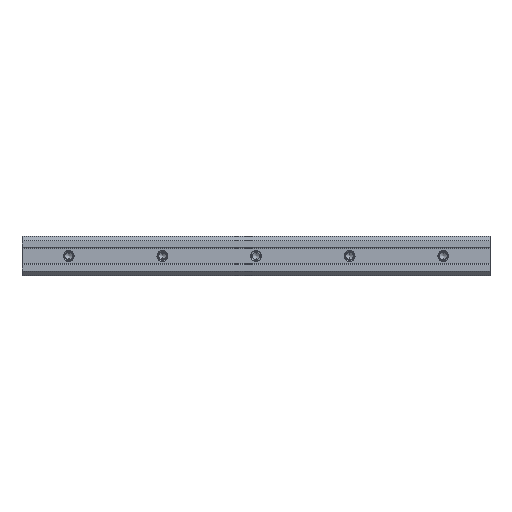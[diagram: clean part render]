
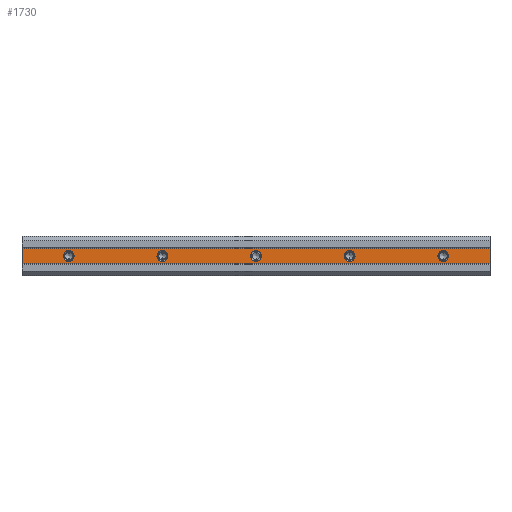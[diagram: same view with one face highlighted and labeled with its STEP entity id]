
A CAD part, front view. The second image highlights one B-rep face of the part: STEP entity #1730.
In plain terms, the highlighted planar face has unit normal (0, -1, 0).
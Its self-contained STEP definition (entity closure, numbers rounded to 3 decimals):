
#11 = EDGE_CURVE ( 'NONE', #1460, #800, #575, .T. ) ;
#20 = CARTESIAN_POINT ( 'NONE',  ( 90., 0.5, 0. ) ) ;
#48 = EDGE_CURVE ( 'NONE', #909, #1624, #1227, .T. ) ;
#71 = DIRECTION ( 'NONE',  ( 0., 1., 0. ) ) ;
#84 = LINE ( 'NONE', #1768, #656 ) ;
#100 = ORIENTED_EDGE ( 'NONE', *, *, #891, .T. ) ;
#126 = FACE_BOUND ( 'NONE', #1877, .T. ) ;
#129 = AXIS2_PLACEMENT_3D ( 'NONE', #319, #1630, #148 ) ;
#130 = VERTEX_POINT ( 'NONE', #854 ) ;
#148 = DIRECTION ( 'NONE',  ( 0., 0., 1. ) ) ;
#161 = ORIENTED_EDGE ( 'NONE', *, *, #830, .F. ) ;
#165 = AXIS2_PLACEMENT_3D ( 'NONE', #961, #473, #1978 ) ;
#190 = LINE ( 'NONE', #524, #1523 ) ;
#195 = CIRCLE ( 'NONE', #271, 3.5 ) ;
#197 = CIRCLE ( 'NONE', #829, 3.5 ) ;
#232 = CARTESIAN_POINT ( 'NONE',  ( 300., 0.5, -5. ) ) ;
#238 = AXIS2_PLACEMENT_3D ( 'NONE', #1076, #917, #577 ) ;
#240 = ORIENTED_EDGE ( 'NONE', *, *, #994, .T. ) ;
#252 = DIRECTION ( 'NONE',  ( -1., 0., 0. ) ) ;
#271 = AXIS2_PLACEMENT_3D ( 'NONE', #970, #496, #817 ) ;
#290 = ORIENTED_EDGE ( 'NONE', *, *, #48, .F. ) ;
#319 = CARTESIAN_POINT ( 'NONE',  ( 30., 0.5, 0. ) ) ;
#330 = VERTEX_POINT ( 'NONE', #617 ) ;
#354 = ORIENTED_EDGE ( 'NONE', *, *, #1329, .T. ) ;
#357 = CARTESIAN_POINT ( 'NONE',  ( 270., 0.5, 3.5 ) ) ;
#377 = EDGE_CURVE ( 'NONE', #330, #1427, #1995, .T. ) ;
#405 = VERTEX_POINT ( 'NONE', #1473 ) ;
#409 = AXIS2_PLACEMENT_3D ( 'NONE', #1885, #879, #703 ) ;
#435 = CARTESIAN_POINT ( 'NONE',  ( 0., 0.5, -5. ) ) ;
#451 = AXIS2_PLACEMENT_3D ( 'NONE', #905, #2049, #1708 ) ;
#473 = DIRECTION ( 'NONE',  ( 0., 1., 0. ) ) ;
#494 = DIRECTION ( 'NONE',  ( 0., 1., 0. ) ) ;
#496 = DIRECTION ( 'NONE',  ( 0., 1., 0. ) ) ;
#524 = CARTESIAN_POINT ( 'NONE',  ( 300., 0.5, -5. ) ) ;
#541 = CARTESIAN_POINT ( 'NONE',  ( 210., 0.5, 0. ) ) ;
#575 = CIRCLE ( 'NONE', #2073, 3.5 ) ;
#577 = DIRECTION ( 'NONE',  ( 0., 0., 1. ) ) ;
#617 = CARTESIAN_POINT ( 'NONE',  ( 0., 0.5, 5. ) ) ;
#640 = CARTESIAN_POINT ( 'NONE',  ( 0., 0.5, -5. ) ) ;
#643 = EDGE_CURVE ( 'NONE', #752, #1304, #1694, .T. ) ;
#654 = CIRCLE ( 'NONE', #1769, 3.5 ) ;
#656 = VECTOR ( 'NONE', #252, 1000. ) ;
#658 = ORIENTED_EDGE ( 'NONE', *, *, #1437, .T. ) ;
#660 = EDGE_CURVE ( 'NONE', #1848, #405, #195, .T. ) ;
#703 = DIRECTION ( 'NONE',  ( 0., 0., 1. ) ) ;
#724 = EDGE_LOOP ( 'NONE', ( #1943, #161, #290, #658 ) ) ;
#738 = DIRECTION ( 'NONE',  ( 0., 1., 0. ) ) ;
#752 = VERTEX_POINT ( 'NONE', #1798 ) ;
#757 = CIRCLE ( 'NONE', #409, 3.5 ) ;
#781 = DIRECTION ( 'NONE',  ( 0., 0., 1. ) ) ;
#786 = ORIENTED_EDGE ( 'NONE', *, *, #11, .T. ) ;
#793 = PLANE ( 'NONE',  #1698 ) ;
#800 = VERTEX_POINT ( 'NONE', #1501 ) ;
#817 = DIRECTION ( 'NONE',  ( 0., 0., 1. ) ) ;
#825 = FACE_BOUND ( 'NONE', #1583, .T. ) ;
#829 = AXIS2_PLACEMENT_3D ( 'NONE', #2060, #1059, #781 ) ;
#830 = EDGE_CURVE ( 'NONE', #1624, #1427, #190, .T. ) ;
#854 = CARTESIAN_POINT ( 'NONE',  ( 210., 0.5, 3.5 ) ) ;
#879 = DIRECTION ( 'NONE',  ( 0., 1., 0. ) ) ;
#889 = CARTESIAN_POINT ( 'NONE',  ( 300., 0.5, 5. ) ) ;
#891 = EDGE_CURVE ( 'NONE', #405, #1848, #757, .T. ) ;
#905 = CARTESIAN_POINT ( 'NONE',  ( 90., 0.5, 0. ) ) ;
#909 = VERTEX_POINT ( 'NONE', #889 ) ;
#911 = EDGE_CURVE ( 'NONE', #130, #1115, #654, .T. ) ;
#917 = DIRECTION ( 'NONE',  ( 0., 1., 0. ) ) ;
#928 = VECTOR ( 'NONE', #1218, 1000. ) ;
#937 = CARTESIAN_POINT ( 'NONE',  ( 150., 0.5, -3.5 ) ) ;
#948 = EDGE_CURVE ( 'NONE', #1838, #1912, #197, .T. ) ;
#961 = CARTESIAN_POINT ( 'NONE',  ( 30., 0.5, 0. ) ) ;
#968 = DIRECTION ( 'NONE',  ( 0., 0., 1. ) ) ;
#970 = CARTESIAN_POINT ( 'NONE',  ( 150., 0.5, 0. ) ) ;
#994 = EDGE_CURVE ( 'NONE', #1304, #752, #2122, .T. ) ;
#1027 = CARTESIAN_POINT ( 'NONE',  ( 300., 0.5, -5. ) ) ;
#1030 = DIRECTION ( 'NONE',  ( 0., 1., 0. ) ) ;
#1059 = DIRECTION ( 'NONE',  ( 0., 1., 0. ) ) ;
#1063 = DIRECTION ( 'NONE',  ( 0., 0., 1. ) ) ;
#1076 = CARTESIAN_POINT ( 'NONE',  ( 270., 0.5, 0. ) ) ;
#1078 = CARTESIAN_POINT ( 'NONE',  ( 90., 0.5, -3.5 ) ) ;
#1115 = VERTEX_POINT ( 'NONE', #2145 ) ;
#1182 = AXIS2_PLACEMENT_3D ( 'NONE', #1234, #71, #1063 ) ;
#1218 = DIRECTION ( 'NONE',  ( 0., 0., -1. ) ) ;
#1227 = LINE ( 'NONE', #232, #928 ) ;
#1234 = CARTESIAN_POINT ( 'NONE',  ( 210., 0.5, 0. ) ) ;
#1298 = FACE_BOUND ( 'NONE', #1855, .T. ) ;
#1304 = VERTEX_POINT ( 'NONE', #2063 ) ;
#1329 = EDGE_CURVE ( 'NONE', #1115, #130, #1842, .T. ) ;
#1341 = EDGE_CURVE ( 'NONE', #1912, #1838, #1731, .T. ) ;
#1393 = ORIENTED_EDGE ( 'NONE', *, *, #911, .T. ) ;
#1427 = VERTEX_POINT ( 'NONE', #435 ) ;
#1437 = EDGE_CURVE ( 'NONE', #909, #330, #84, .T. ) ;
#1455 = CIRCLE ( 'NONE', #451, 3.5 ) ;
#1460 = VERTEX_POINT ( 'NONE', #1078 ) ;
#1473 = CARTESIAN_POINT ( 'NONE',  ( 150., 0.5, 3.5 ) ) ;
#1501 = CARTESIAN_POINT ( 'NONE',  ( 90., 0.5, 3.5 ) ) ;
#1517 = ORIENTED_EDGE ( 'NONE', *, *, #660, .T. ) ;
#1520 = DIRECTION ( 'NONE',  ( 0., 0., 1. ) ) ;
#1523 = VECTOR ( 'NONE', #1852, 1000. ) ;
#1548 = EDGE_LOOP ( 'NONE', ( #1517, #100 ) ) ;
#1582 = ORIENTED_EDGE ( 'NONE', *, *, #643, .T. ) ;
#1583 = EDGE_LOOP ( 'NONE', ( #240, #1582 ) ) ;
#1624 = VERTEX_POINT ( 'NONE', #1027 ) ;
#1630 = DIRECTION ( 'NONE',  ( 0., 1., 0. ) ) ;
#1644 = EDGE_LOOP ( 'NONE', ( #786, #1916 ) ) ;
#1654 = VECTOR ( 'NONE', #1840, 1000. ) ;
#1694 = CIRCLE ( 'NONE', #129, 3.5 ) ;
#1696 = DIRECTION ( 'NONE',  ( 0., 0., 1. ) ) ;
#1698 = AXIS2_PLACEMENT_3D ( 'NONE', #2164, #494, #968 ) ;
#1708 = DIRECTION ( 'NONE',  ( 0., 0., 1. ) ) ;
#1730 = ADVANCED_FACE ( 'NONE', ( #1959, #825, #2138, #1969, #126, #1298 ), #793, .F. ) ;
#1731 = CIRCLE ( 'NONE', #238, 3.5 ) ;
#1768 = CARTESIAN_POINT ( 'NONE',  ( 300., 0.5, 5. ) ) ;
#1769 = AXIS2_PLACEMENT_3D ( 'NONE', #541, #738, #1696 ) ;
#1782 = ORIENTED_EDGE ( 'NONE', *, *, #1341, .T. ) ;
#1798 = CARTESIAN_POINT ( 'NONE',  ( 30., 0.5, 3.5 ) ) ;
#1838 = VERTEX_POINT ( 'NONE', #1929 ) ;
#1840 = DIRECTION ( 'NONE',  ( 0., 0., -1. ) ) ;
#1842 = CIRCLE ( 'NONE', #1182, 3.5 ) ;
#1848 = VERTEX_POINT ( 'NONE', #937 ) ;
#1852 = DIRECTION ( 'NONE',  ( -1., 0., 0. ) ) ;
#1855 = EDGE_LOOP ( 'NONE', ( #2124, #1782 ) ) ;
#1877 = EDGE_LOOP ( 'NONE', ( #354, #1393 ) ) ;
#1885 = CARTESIAN_POINT ( 'NONE',  ( 150., 0.5, 0. ) ) ;
#1912 = VERTEX_POINT ( 'NONE', #357 ) ;
#1916 = ORIENTED_EDGE ( 'NONE', *, *, #2068, .T. ) ;
#1929 = CARTESIAN_POINT ( 'NONE',  ( 270., 0.5, -3.5 ) ) ;
#1943 = ORIENTED_EDGE ( 'NONE', *, *, #377, .T. ) ;
#1959 = FACE_BOUND ( 'NONE', #1644, .T. ) ;
#1969 = FACE_BOUND ( 'NONE', #1548, .T. ) ;
#1978 = DIRECTION ( 'NONE',  ( 0., 0., 1. ) ) ;
#1995 = LINE ( 'NONE', #640, #1654 ) ;
#2049 = DIRECTION ( 'NONE',  ( 0., 1., 0. ) ) ;
#2060 = CARTESIAN_POINT ( 'NONE',  ( 270., 0.5, 0. ) ) ;
#2063 = CARTESIAN_POINT ( 'NONE',  ( 30., 0.5, -3.5 ) ) ;
#2068 = EDGE_CURVE ( 'NONE', #800, #1460, #1455, .T. ) ;
#2073 = AXIS2_PLACEMENT_3D ( 'NONE', #20, #1030, #1520 ) ;
#2122 = CIRCLE ( 'NONE', #165, 3.5 ) ;
#2124 = ORIENTED_EDGE ( 'NONE', *, *, #948, .T. ) ;
#2138 = FACE_OUTER_BOUND ( 'NONE', #724, .T. ) ;
#2145 = CARTESIAN_POINT ( 'NONE',  ( 210., 0.5, -3.5 ) ) ;
#2164 = CARTESIAN_POINT ( 'NONE',  ( 300., 0.5, -5. ) ) ;
